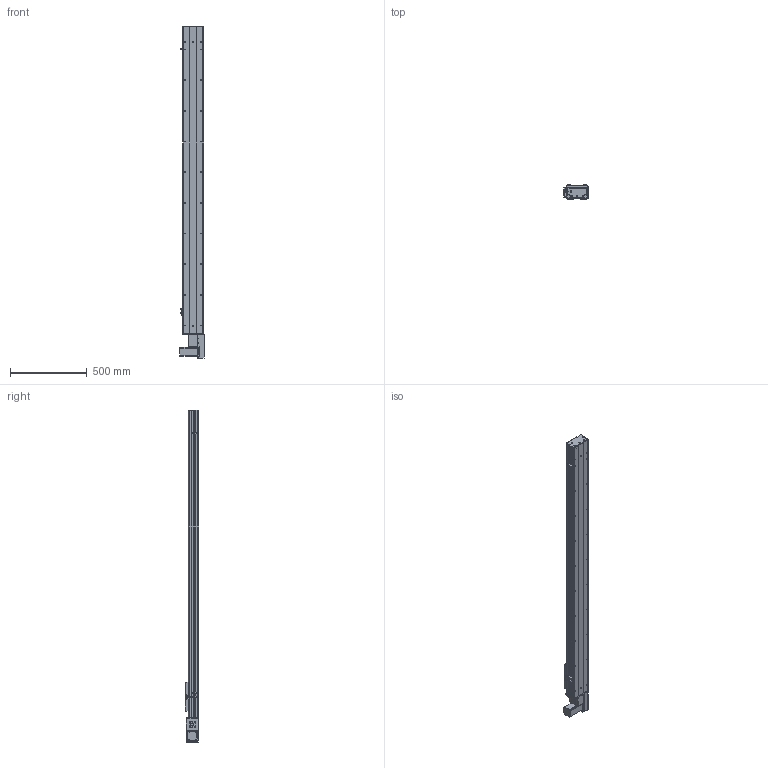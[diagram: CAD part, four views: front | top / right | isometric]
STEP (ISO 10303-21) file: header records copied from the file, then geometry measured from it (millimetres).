
FILE_DESCRIPTION (( 'STEP AP203' ), '1' );
FILE_NAME ('Y135CB-D90-S1700-BL-P400W.STEP', '2020-02-18T01:25:00', ( '微软用户' ), ( '微软中国' ), 'SwSTEP 2.0', 'SolidWorks 2017', '' );
FILE_SCHEMA (( 'CONFIG_CONTROL_DESIGN' ));
Length unit declared in the file: millimetre
Products named in the file (18): 135CB--詩湍-CE; Y10B-耜蚾蟀諉啣----; Y100-135俋离換覜ん--; Y俋欶BR----; Y135C-陔俋离換覜結え-; 0B-埴倛裔啣; 5C--俋欶; 0B-源倛裔啣; C-雄赽釱--; 0B-萇儂楊擘啣; Y135CB-耜裔; Y135CB-D90-S1700-BL-P400W; san松下电机400不带刹车----; 135CB---遴掛极.-; 5CB --掛极耜裔啣-; 35CB---喘謫眊楊擘啣; C-詩湍揤踡え-陔; Y10B--々湍喘謫眊--666
Assembly tree (21 placements, depth 2):
  Y135CB-D90-S1700-BL-P400W
    Y135CB-耜裔
    135CB---遴掛极.-
    35CB---喘謫眊楊擘啣
    Y10B--々湍喘謫眊--666
    Y10B-耜蚾蟀諉啣----
    Y俋欶BR----
    0B-埴倛裔啣
    0B-源倛裔啣
    0B-萇儂楊擘啣
    san松下电机400不带刹车----
    5CB --掛极耜裔啣-  x2
    C-詩湍揤踡え-陔  x2
    135CB--詩湍-CE
    Y100-135俋离換覜ん--  x3
    Y135C-陔俋离換覜結え-
    5C--俋欶
    C-雄赽釱--
Bounding box: 157.5 x 91 x 2164.5 mm (x, y, z)
Volume: 6205026.3 mm3; surface area: 2447142.9 mm2
Topology: 21 solids, 21 shells, 961 faces, 2599 edges, 1722 vertices
Faces by surface type: cylinder 487, plane 458, cone 16
Entity records: 30149 total; most frequent: DIRECTION 5007, CARTESIAN_POINT 4988, ORIENTED_EDGE 4674, EDGE_CURVE 2337, AXIS2_PLACEMENT_3D 1829, VERTEX_POINT 1550, VECTOR 1349, LINE 1349
